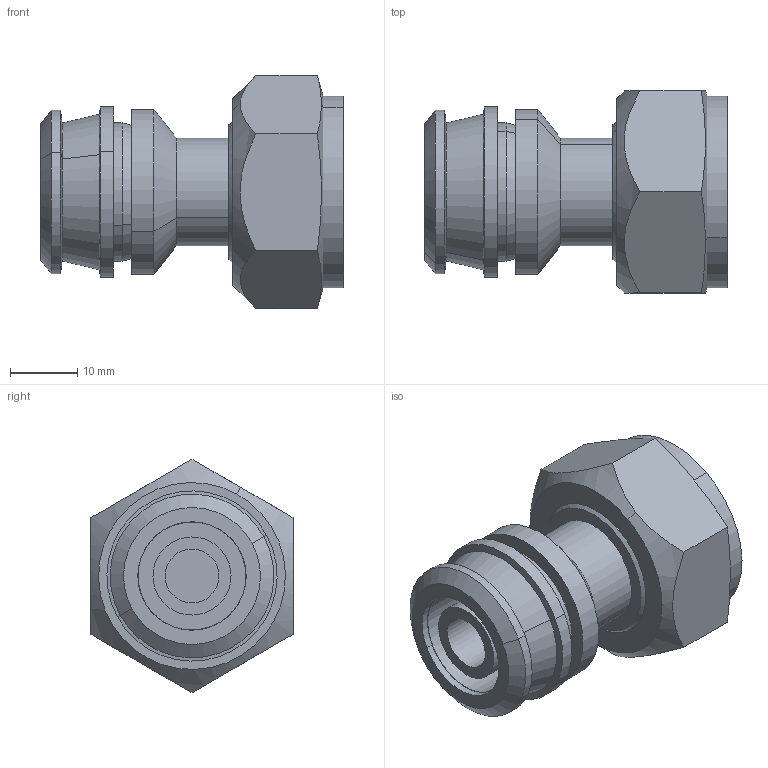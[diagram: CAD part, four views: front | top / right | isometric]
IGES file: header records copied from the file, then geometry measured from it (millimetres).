
Start section: 3D InterOp IGES (Version 26 1 0), Spatial Corp. Copyright (c) 1999-2007.
Global section: file name: pim0004198.igs; native system: Spatial Corp.; preprocessor: 3D InterOp ACIS/IGES; author: cad-pim; organization: TransMagic, Inc.; date: 20170209.145819; units: millimetre
Bounding box: 44.85 x 30 x 34.64 mm (x, y, z)
Volume: 15537.1 mm3; surface area: 7904.5 mm2
Topology: 1 solids, 1 shells, 62 faces, 132 edges, 82 vertices
Faces by surface type: bspline 62
